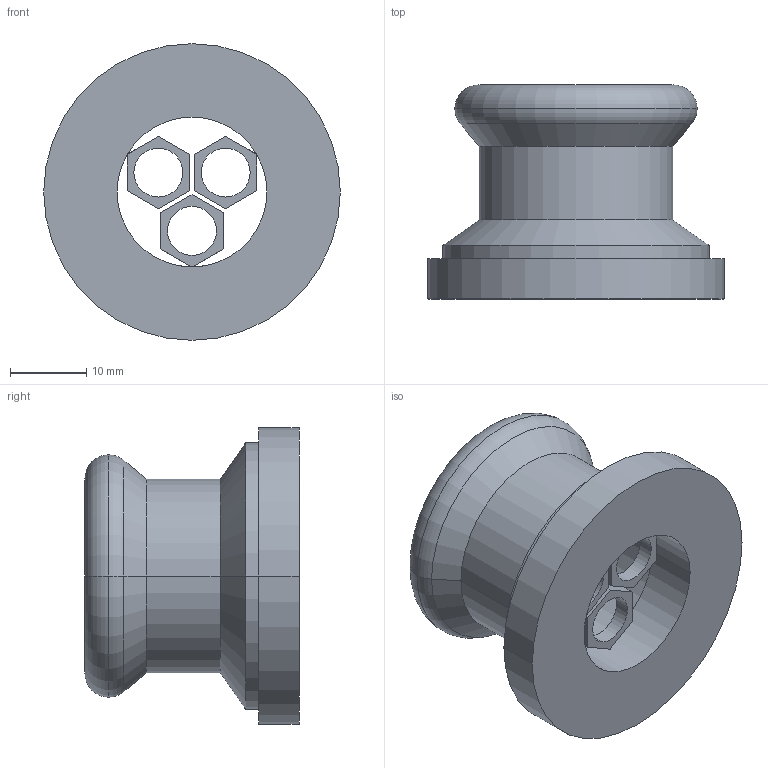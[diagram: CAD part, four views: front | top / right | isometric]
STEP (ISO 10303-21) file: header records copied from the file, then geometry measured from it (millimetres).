
FILE_DESCRIPTION(('OneSpaceDesigner STEP Export'),'2;1');
FILE_NAME('R2736 22x1 1-4.stp','2010-06-10T14:06:11',(''),(''),'OneSpace Designer STEP processor for AP214 (Solid Model)','OneSpace Modeling 15.00A 14-Mar-2007 (C) CoCreate Software GmbH','');
FILE_SCHEMA(('AUTOMOTIVE_DESIGN { 1 0 10303 214 1 1 1 1 }'));
Length unit declared in the file: millimetre
Products named in the file (2): R2736_22x1.1-4
Assembly tree (1 placements, depth 2):
  R2736_22x1.1-4
    R2736_22x1.1-4
Bounding box: 38.8 x 28 x 38.8 mm (x, y, z)
Volume: 10499.5 mm3; surface area: 6882.4 mm2
Topology: 1 solids, 1 shells, 61 faces, 149 edges, 96 vertices
Faces by surface type: plane 32, cylinder 21, torus 4, cone 4
Entity records: 1652 total; most frequent: ORIENTED_EDGE 298, CARTESIAN_POINT 266, DIRECTION 249, EDGE_CURVE 149, VERTEX_POINT 96, VECTOR 91, LINE 91, AXIS2_PLACEMENT_3D 79
